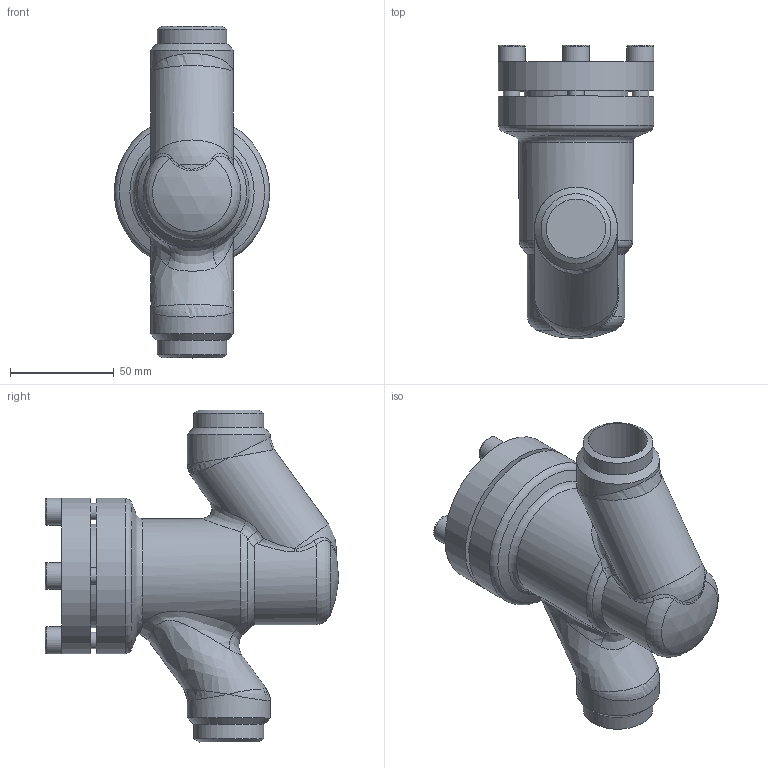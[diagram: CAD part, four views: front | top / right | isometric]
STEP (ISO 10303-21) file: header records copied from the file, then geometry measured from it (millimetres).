
FILE_DESCRIPTION((''),'2;1');
FILE_NAME('Y:\Home\AWP_CAD (2D+3D-Ansicht)\CAD Drawings\3D_STEP\RV D AE\RV D AE 28G00-25 PS25.stp','2012-08-27T11:30:55',('Lempe.Ha'),(''),'Autodesk Inventor 2012','Autodesk Inventor 2012','');
FILE_SCHEMA(('AUTOMOTIVE_DESIGN { 1 0 10303 214 1 1 1 1 }'));
Length unit declared in the file: millimetre
Products named in the file (4): 28G00C12.A5A00000; 16G00E12.5034004; 28300E13.5141004; DIN 912 - ersetzt durch DIN EN ISO 4762 M8 x 25
Assembly tree (6 placements, depth 2):
  28G00C12.A5A00000
    16G00E12.5034004
    28300E13.5141004
    DIN 912 - ersetzt durch DIN EN ISO 4762 M8 x 25  x4
Bounding box: 75 x 141.47 x 160 mm (x, y, z)
Volume: 366718.3 mm3; surface area: 83474.3 mm2
Topology: 6 solids, 6 shells, 152 faces, 342 edges, 205 vertices
Faces by surface type: plane 47, cylinder 40, cone 24, bspline 22, torus 17, sphere 2
Full cylindrical faces by diameter (mm): 6.647 x4, 8 x4, 9 x4, 13 x4, 28.5 x2, 32 x1, 33.7 x2, 36 x2, 40 x4, 43 x3, 48 x1, 50 x2, 75 x2
Entity records: 4037 total; most frequent: CARTESIAN_POINT 1927, DIRECTION 390, ORIENTED_EDGE 340, AXIS2_PLACEMENT_3D 189, EDGE_LOOP 177, EDGE_CURVE 170, VERTEX_POINT 131, FACE_OUTER_BOUND 107
